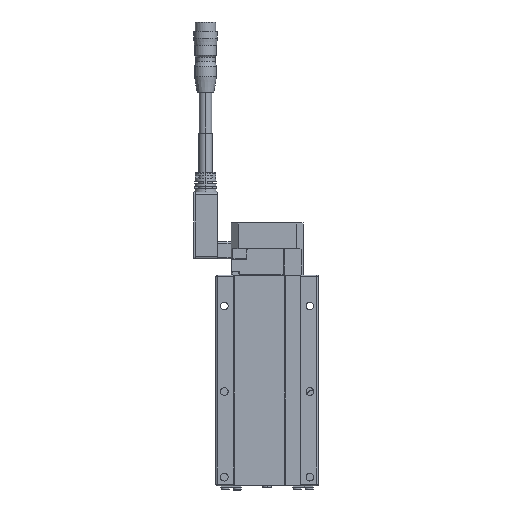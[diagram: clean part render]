
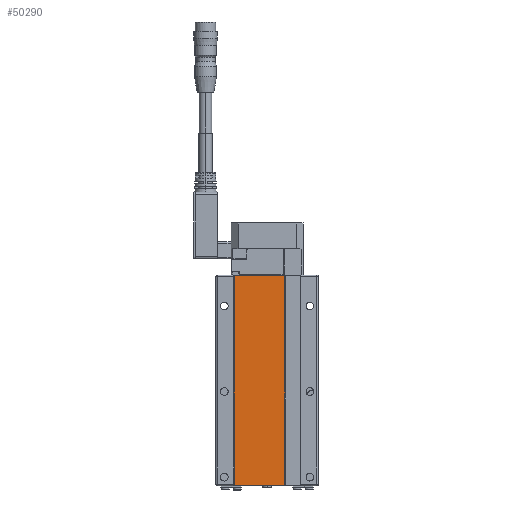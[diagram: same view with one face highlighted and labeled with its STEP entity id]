
A CAD part, front view. The second image highlights one B-rep face of the part: STEP entity #50290.
In plain terms, the highlighted planar face has unit normal (0, -1, 0).
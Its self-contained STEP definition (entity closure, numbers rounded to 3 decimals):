
#4665 = DIRECTION ( 'NONE',  ( 0., 1., 0. ) ) ;
#8659 = VERTEX_POINT ( 'NONE', #51188 ) ;
#9193 = AXIS2_PLACEMENT_3D ( 'NONE', #21532, #4665, #52412 ) ;
#9773 = FACE_OUTER_BOUND ( 'NONE', #36392, .T. ) ;
#10083 = DIRECTION ( 'NONE',  ( 0., 0., -1. ) ) ;
#13649 = VERTEX_POINT ( 'NONE', #15766 ) ;
#13998 = EDGE_CURVE ( 'NONE', #13649, #39709, #32521, .T. ) ;
#15263 = VECTOR ( 'NONE', #10083, 1000. ) ;
#15766 = CARTESIAN_POINT ( 'NONE',  ( 10.3, 0.3, 61.3 ) ) ;
#16501 = ORIENTED_EDGE ( 'NONE', *, *, #37932, .T. ) ;
#18202 = DIRECTION ( 'NONE',  ( 1., 0., 0. ) ) ;
#19510 = LINE ( 'NONE', #32939, #31717 ) ;
#19974 = CARTESIAN_POINT ( 'NONE',  ( -19.3, 0.3, -61.3 ) ) ;
#21532 = CARTESIAN_POINT ( 'NONE',  ( -19.3, 0.3, 61.3 ) ) ;
#24209 = CARTESIAN_POINT ( 'NONE',  ( -19.3, 0.3, 61.3 ) ) ;
#27009 = ORIENTED_EDGE ( 'NONE', *, *, #13998, .T. ) ;
#27209 = PLANE ( 'NONE',  #9193 ) ;
#29181 = VECTOR ( 'NONE', #50231, 1000. ) ;
#31717 = VECTOR ( 'NONE', #37263, 1000. ) ;
#32521 = LINE ( 'NONE', #24209, #29181 ) ;
#32939 = CARTESIAN_POINT ( 'NONE',  ( 10.3, 0.3, -61.3 ) ) ;
#35961 = LINE ( 'NONE', #39989, #44922 ) ;
#36392 = EDGE_LOOP ( 'NONE', ( #16501, #36716, #46065, #27009 ) ) ;
#36696 = CARTESIAN_POINT ( 'NONE',  ( -19.3, 0.3, -61.3 ) ) ;
#36716 = ORIENTED_EDGE ( 'NONE', *, *, #51230, .T. ) ;
#36932 = EDGE_CURVE ( 'NONE', #8659, #13649, #19510, .T. ) ;
#37263 = DIRECTION ( 'NONE',  ( 0., 0., 1. ) ) ;
#37932 = EDGE_CURVE ( 'NONE', #39709, #50953, #45003, .T. ) ;
#39709 = VERTEX_POINT ( 'NONE', #47470 ) ;
#39989 = CARTESIAN_POINT ( 'NONE',  ( -19.3, 0.3, -61.3 ) ) ;
#44922 = VECTOR ( 'NONE', #18202, 1000. ) ;
#45003 = LINE ( 'NONE', #36696, #15263 ) ;
#46065 = ORIENTED_EDGE ( 'NONE', *, *, #36932, .T. ) ;
#47470 = CARTESIAN_POINT ( 'NONE',  ( -19.3, 0.3, 61.3 ) ) ;
#50231 = DIRECTION ( 'NONE',  ( -1., 0., 0. ) ) ;
#50290 = ADVANCED_FACE ( 'NONE', ( #9773 ), #27209, .F. ) ;
#50953 = VERTEX_POINT ( 'NONE', #19974 ) ;
#51188 = CARTESIAN_POINT ( 'NONE',  ( 10.3, 0.3, -61.3 ) ) ;
#51230 = EDGE_CURVE ( 'NONE', #50953, #8659, #35961, .T. ) ;
#52412 = DIRECTION ( 'NONE',  ( -1., 0., 0. ) ) ;
